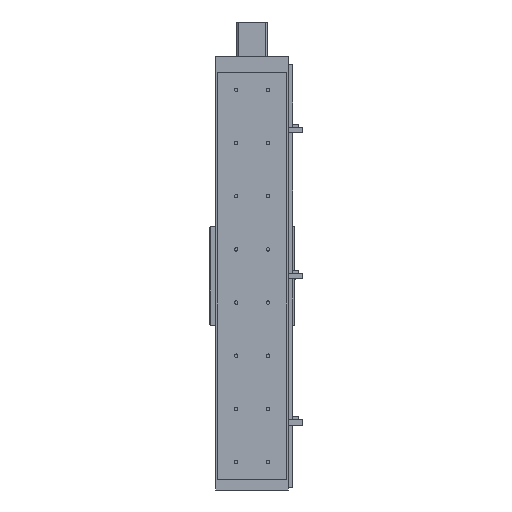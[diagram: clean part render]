
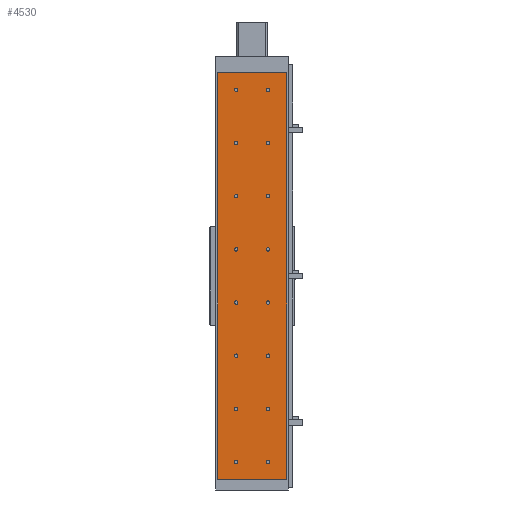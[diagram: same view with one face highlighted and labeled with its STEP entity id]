
A CAD part, front view. The second image highlights one B-rep face of the part: STEP entity #4530.
In plain terms, the highlighted planar face has unit normal (0, -1, 0).
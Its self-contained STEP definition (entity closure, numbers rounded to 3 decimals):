
#2214=CARTESIAN_POINT('',(26.75,0.0,132.5));
#2215=VERTEX_POINT('',#2214);
#2216=CARTESIAN_POINT('',(30.,0.0,132.5));
#2217=DIRECTION('',(0.0,1.0,0.0));
#2218=DIRECTION('',(1.0,0.0,0.0));
#2219=AXIS2_PLACEMENT_3D('',#2216,#2217,#2218);
#2220=CIRCLE('',#2219,3.25);
#2221=EDGE_CURVE('',#2215,#2215,#2220,.T.);
#2255=CARTESIAN_POINT('',(-33.25,0.0,132.5));
#2256=VERTEX_POINT('',#2255);
#2257=CARTESIAN_POINT('',(-30.,0.0,132.5));
#2258=DIRECTION('',(0.0,1.0,0.0));
#2259=DIRECTION('',(1.0,0.0,0.0));
#2260=AXIS2_PLACEMENT_3D('',#2257,#2258,#2259);
#2261=CIRCLE('',#2260,3.25);
#2262=EDGE_CURVE('',#2256,#2256,#2261,.T.);
#2365=CARTESIAN_POINT('',(-33.25,0.0,532.5));
#2366=VERTEX_POINT('',#2365);
#2367=CARTESIAN_POINT('',(-30.,0.0,532.5));
#2368=DIRECTION('',(0.0,1.0,0.0));
#2369=DIRECTION('',(1.0,0.0,0.0));
#2370=AXIS2_PLACEMENT_3D('',#2367,#2368,#2369);
#2371=CIRCLE('',#2370,3.25);
#2372=EDGE_CURVE('',#2366,#2366,#2371,.T.);
#2544=CARTESIAN_POINT('',(26.75,0.0,532.5));
#2545=VERTEX_POINT('',#2544);
#2546=CARTESIAN_POINT('',(30.,0.0,532.5));
#2547=DIRECTION('',(0.0,1.0,0.0));
#2548=DIRECTION('',(1.0,0.0,0.0));
#2549=AXIS2_PLACEMENT_3D('',#2546,#2547,#2548);
#2550=CIRCLE('',#2549,3.25);
#2551=EDGE_CURVE('',#2545,#2545,#2550,.T.);
#2585=CARTESIAN_POINT('',(-33.25,0.0,632.5));
#2586=VERTEX_POINT('',#2585);
#2587=CARTESIAN_POINT('',(-30.,0.0,632.5));
#2588=DIRECTION('',(0.0,1.0,0.0));
#2589=DIRECTION('',(1.0,0.0,0.0));
#2590=AXIS2_PLACEMENT_3D('',#2587,#2588,#2589);
#2591=CIRCLE('',#2590,3.25);
#2592=EDGE_CURVE('',#2586,#2586,#2591,.T.);
#2764=CARTESIAN_POINT('',(26.75,0.0,632.5));
#2765=VERTEX_POINT('',#2764);
#2766=CARTESIAN_POINT('',(30.,0.0,632.5));
#2767=DIRECTION('',(0.0,1.0,0.0));
#2768=DIRECTION('',(1.0,0.0,0.0));
#2769=AXIS2_PLACEMENT_3D('',#2766,#2767,#2768);
#2770=CIRCLE('',#2769,3.25);
#2771=EDGE_CURVE('',#2765,#2765,#2770,.T.);
#2805=CARTESIAN_POINT('',(-33.25,0.0,732.5));
#2806=VERTEX_POINT('',#2805);
#2807=CARTESIAN_POINT('',(-30.,0.0,732.5));
#2808=DIRECTION('',(0.0,1.0,0.0));
#2809=DIRECTION('',(1.0,0.0,0.0));
#2810=AXIS2_PLACEMENT_3D('',#2807,#2808,#2809);
#2811=CIRCLE('',#2810,3.25);
#2812=EDGE_CURVE('',#2806,#2806,#2811,.T.);
#2984=CARTESIAN_POINT('',(26.75,0.0,732.5));
#2985=VERTEX_POINT('',#2984);
#2986=CARTESIAN_POINT('',(30.,0.0,732.5));
#2987=DIRECTION('',(0.0,1.0,0.0));
#2988=DIRECTION('',(1.0,0.0,0.0));
#2989=AXIS2_PLACEMENT_3D('',#2986,#2987,#2988);
#2990=CIRCLE('',#2989,3.25);
#2991=EDGE_CURVE('',#2985,#2985,#2990,.T.);
#3025=CARTESIAN_POINT('',(-33.25,0.0,332.5));
#3026=VERTEX_POINT('',#3025);
#3027=CARTESIAN_POINT('',(-30.,0.0,332.5));
#3028=DIRECTION('',(0.0,1.0,0.0));
#3029=DIRECTION('',(1.0,0.0,0.0));
#3030=AXIS2_PLACEMENT_3D('',#3027,#3028,#3029);
#3031=CIRCLE('',#3030,3.25);
#3032=EDGE_CURVE('',#3026,#3026,#3031,.T.);
#3204=CARTESIAN_POINT('',(26.75,0.0,332.5));
#3205=VERTEX_POINT('',#3204);
#3206=CARTESIAN_POINT('',(30.,0.0,332.5));
#3207=DIRECTION('',(0.0,1.0,0.0));
#3208=DIRECTION('',(1.0,0.0,0.0));
#3209=AXIS2_PLACEMENT_3D('',#3206,#3207,#3208);
#3210=CIRCLE('',#3209,3.25);
#3211=EDGE_CURVE('',#3205,#3205,#3210,.T.);
#3245=CARTESIAN_POINT('',(-33.25,0.0,232.5));
#3246=VERTEX_POINT('',#3245);
#3247=CARTESIAN_POINT('',(-30.,0.0,232.5));
#3248=DIRECTION('',(0.0,1.0,0.0));
#3249=DIRECTION('',(1.0,0.0,0.0));
#3250=AXIS2_PLACEMENT_3D('',#3247,#3248,#3249);
#3251=CIRCLE('',#3250,3.25);
#3252=EDGE_CURVE('',#3246,#3246,#3251,.T.);
#3424=CARTESIAN_POINT('',(26.75,0.0,232.5));
#3425=VERTEX_POINT('',#3424);
#3426=CARTESIAN_POINT('',(30.,0.0,232.5));
#3427=DIRECTION('',(0.0,1.0,0.0));
#3428=DIRECTION('',(1.0,0.0,0.0));
#3429=AXIS2_PLACEMENT_3D('',#3426,#3427,#3428);
#3430=CIRCLE('',#3429,3.25);
#3431=EDGE_CURVE('',#3425,#3425,#3430,.T.);
#3465=CARTESIAN_POINT('',(-33.25,0.0,32.5));
#3466=VERTEX_POINT('',#3465);
#3467=CARTESIAN_POINT('',(-30.,0.0,32.5));
#3468=DIRECTION('',(0.0,1.0,0.0));
#3469=DIRECTION('',(1.0,0.0,0.0));
#3470=AXIS2_PLACEMENT_3D('',#3467,#3468,#3469);
#3471=CIRCLE('',#3470,3.25);
#3472=EDGE_CURVE('',#3466,#3466,#3471,.T.);
#3644=CARTESIAN_POINT('',(26.75,0.0,32.5));
#3645=VERTEX_POINT('',#3644);
#3646=CARTESIAN_POINT('',(30.,0.0,32.5));
#3647=DIRECTION('',(0.0,1.0,0.0));
#3648=DIRECTION('',(1.0,0.0,0.0));
#3649=AXIS2_PLACEMENT_3D('',#3646,#3647,#3648);
#3650=CIRCLE('',#3649,3.25);
#3651=EDGE_CURVE('',#3645,#3645,#3650,.T.);
#3754=CARTESIAN_POINT('',(26.75,0.0,432.5));
#3755=VERTEX_POINT('',#3754);
#3756=CARTESIAN_POINT('',(30.,0.0,432.5));
#3757=DIRECTION('',(0.0,1.0,0.0));
#3758=DIRECTION('',(1.0,0.0,0.0));
#3759=AXIS2_PLACEMENT_3D('',#3756,#3757,#3758);
#3760=CIRCLE('',#3759,3.25);
#3761=EDGE_CURVE('',#3755,#3755,#3760,.T.);
#3864=CARTESIAN_POINT('',(-33.25,0.0,432.5));
#3865=VERTEX_POINT('',#3864);
#3866=CARTESIAN_POINT('',(-30.,0.0,432.5));
#3867=DIRECTION('',(0.0,1.0,0.0));
#3868=DIRECTION('',(1.0,0.0,0.0));
#3869=AXIS2_PLACEMENT_3D('',#3866,#3867,#3868);
#3870=CIRCLE('',#3869,3.25);
#3871=EDGE_CURVE('',#3865,#3865,#3870,.T.);
#4198=CARTESIAN_POINT('',(65.0,0.0,0.0));
#4199=VERTEX_POINT('',#4198);
#4206=CARTESIAN_POINT('',(-65.0,0.0,0.0));
#4207=VERTEX_POINT('',#4206);
#4208=CARTESIAN_POINT('',(-65.0,0.0,0.0));
#4209=DIRECTION('',(1.0,0.0,0.0));
#4210=VECTOR('',#4209,130.0);
#4211=LINE('',#4208,#4210);
#4212=EDGE_CURVE('',#4207,#4199,#4211,.T.);
#4402=CARTESIAN_POINT('',(-65.0,0.0,765.0));
#4403=VERTEX_POINT('',#4402);
#4410=CARTESIAN_POINT('',(65.0,0.0,765.0));
#4411=VERTEX_POINT('',#4410);
#4412=CARTESIAN_POINT('',(65.0,0.0,765.0));
#4413=DIRECTION('',(-1.0,0.0,0.0));
#4414=VECTOR('',#4413,130.0);
#4415=LINE('',#4412,#4414);
#4416=EDGE_CURVE('',#4411,#4403,#4415,.T.);
#4439=CARTESIAN_POINT('',(-65.0,0.0,0.0));
#4440=DIRECTION('',(0.0,0.0,1.0));
#4441=VECTOR('',#4440,765.0);
#4442=LINE('',#4439,#4441);
#4443=EDGE_CURVE('',#4207,#4403,#4442,.T.);
#4461=CARTESIAN_POINT('',(65.0,0.0,0.0));
#4462=DIRECTION('',(0.0,0.0,1.0));
#4463=VECTOR('',#4462,765.0);
#4464=LINE('',#4461,#4463);
#4465=EDGE_CURVE('',#4199,#4411,#4464,.T.);
#4471=CARTESIAN_POINT('',(65.0,0.0,0.0));
#4472=DIRECTION('',(0.0,-1.0,0.0));
#4473=DIRECTION('',(0.0,0.0,-1.0));
#4474=AXIS2_PLACEMENT_3D('',#4471,#4472,#4473);
#4475=PLANE('',#4474);
#4476=ORIENTED_EDGE('',*,*,#4416,.T.);
#4477=ORIENTED_EDGE('',*,*,#4443,.F.);
#4478=ORIENTED_EDGE('',*,*,#4212,.T.);
#4479=ORIENTED_EDGE('',*,*,#4465,.T.);
#4480=EDGE_LOOP('',(#4476,#4477,#4478,#4479));
#4481=FACE_OUTER_BOUND('',#4480,.T.);
#4482=ORIENTED_EDGE('',*,*,#2221,.T.);
#4483=EDGE_LOOP('',(#4482));
#4484=FACE_BOUND('',#4483,.T.);
#4485=ORIENTED_EDGE('',*,*,#2262,.T.);
#4486=EDGE_LOOP('',(#4485));
#4487=FACE_BOUND('',#4486,.T.);
#4488=ORIENTED_EDGE('',*,*,#2372,.T.);
#4489=EDGE_LOOP('',(#4488));
#4490=FACE_BOUND('',#4489,.T.);
#4491=ORIENTED_EDGE('',*,*,#2551,.T.);
#4492=EDGE_LOOP('',(#4491));
#4493=FACE_BOUND('',#4492,.T.);
#4494=ORIENTED_EDGE('',*,*,#2592,.T.);
#4495=EDGE_LOOP('',(#4494));
#4496=FACE_BOUND('',#4495,.T.);
#4497=ORIENTED_EDGE('',*,*,#2771,.T.);
#4498=EDGE_LOOP('',(#4497));
#4499=FACE_BOUND('',#4498,.T.);
#4500=ORIENTED_EDGE('',*,*,#2812,.T.);
#4501=EDGE_LOOP('',(#4500));
#4502=FACE_BOUND('',#4501,.T.);
#4503=ORIENTED_EDGE('',*,*,#2991,.T.);
#4504=EDGE_LOOP('',(#4503));
#4505=FACE_BOUND('',#4504,.T.);
#4506=ORIENTED_EDGE('',*,*,#3032,.T.);
#4507=EDGE_LOOP('',(#4506));
#4508=FACE_BOUND('',#4507,.T.);
#4509=ORIENTED_EDGE('',*,*,#3211,.T.);
#4510=EDGE_LOOP('',(#4509));
#4511=FACE_BOUND('',#4510,.T.);
#4512=ORIENTED_EDGE('',*,*,#3252,.T.);
#4513=EDGE_LOOP('',(#4512));
#4514=FACE_BOUND('',#4513,.T.);
#4515=ORIENTED_EDGE('',*,*,#3431,.T.);
#4516=EDGE_LOOP('',(#4515));
#4517=FACE_BOUND('',#4516,.T.);
#4518=ORIENTED_EDGE('',*,*,#3472,.T.);
#4519=EDGE_LOOP('',(#4518));
#4520=FACE_BOUND('',#4519,.T.);
#4521=ORIENTED_EDGE('',*,*,#3651,.T.);
#4522=EDGE_LOOP('',(#4521));
#4523=FACE_BOUND('',#4522,.T.);
#4524=ORIENTED_EDGE('',*,*,#3761,.T.);
#4525=EDGE_LOOP('',(#4524));
#4526=FACE_BOUND('',#4525,.T.);
#4527=ORIENTED_EDGE('',*,*,#3871,.T.);
#4528=EDGE_LOOP('',(#4527));
#4529=FACE_BOUND('',#4528,.T.);
#4530=ADVANCED_FACE('',(#4481,#4484,#4487,#4490,#4493,#4496,#4499,#4502,#4505,#4508,#4511,#4514,#4517,#4520,#4523,#4526,#4529),#4475,.T.);
